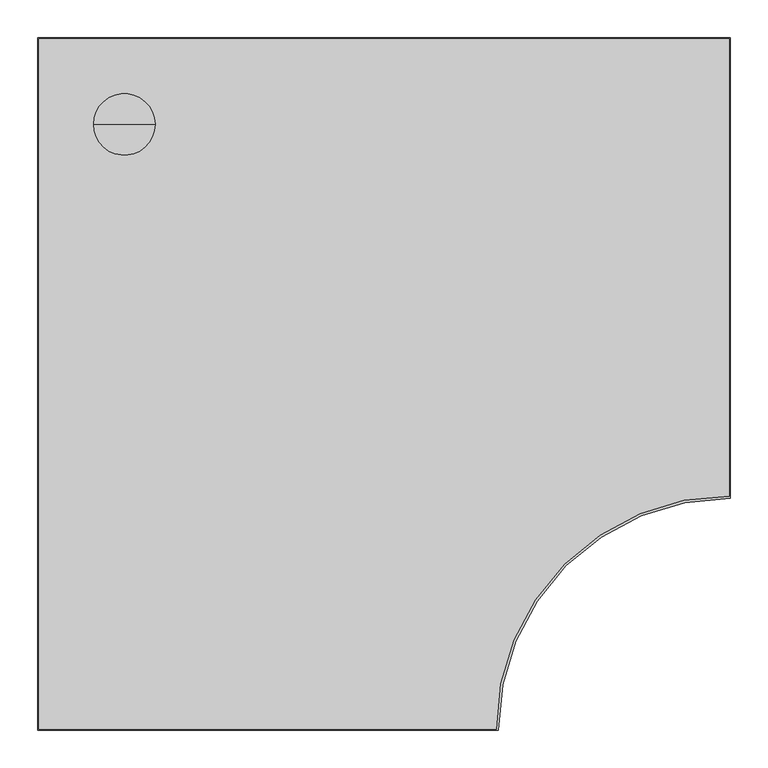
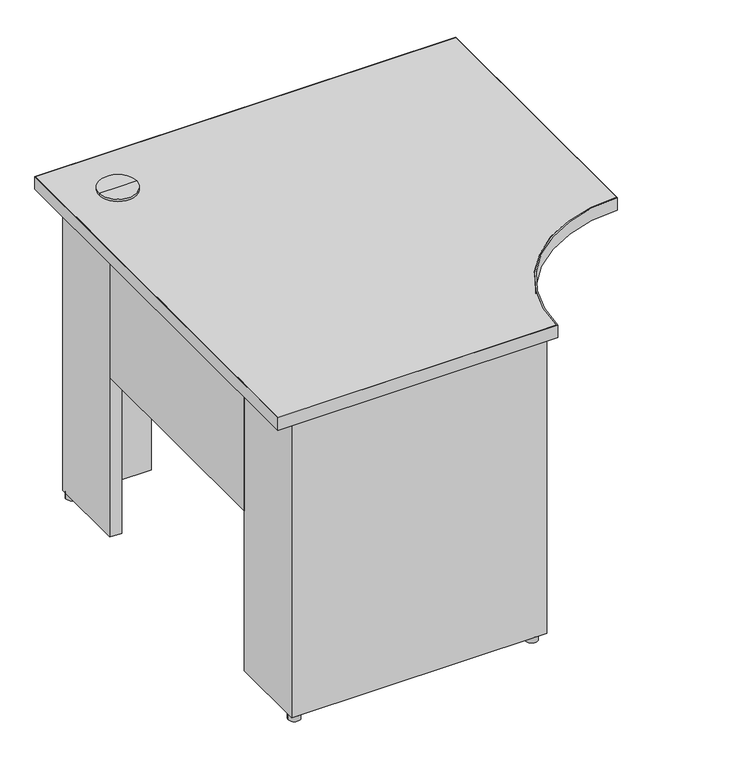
"""IFC4 building model written with IfcOpenShell, lengths in millimetres: furniture geometry, Steelcase - Kick Freestanding - Desk - Curve Corner - Partial Height Modesty Panel : 24D x 36W - Left Full End Panel/Right Clear Access Support - LPL."""

from ifc_helpers import new_model, si_unit, point, frame, frame_2d, origin, origin_with_axes, place, context, project, spatial, polyline, circle_curve, trimmed, segment, composite_curve, outline, extrude, source, transform, mapped, element, save
from ifc_brep_helpers import plane_surface, cylinder_surface, advanced_brep


def furniture_e6da1d96(model_context):
    return source(origin(), model_context, "Body", "SolidModel", [
        extrude(outline(composite_curve([segment(trimmed(circle_curve(frame_2d((566.7971133, -887.4759893)), 12.7), [point((554.0971133, -887.4759893))], [point((579.4971133, -887.4759893))], False, "CARTESIAN"), True, "CONTINUOUS"), segment(trimmed(circle_curve(frame_2d((566.7971133, -887.4759893)), 12.7), [point((579.4971133, -887.4759893))], [point((554.0971133, -887.4759893))], False, "CARTESIAN"), True, "CONTINUOUS")], self_intersect=False)), origin_with_axes(), (0.0, 0.0, 1.0), 12.446),
        extrude(outline(polyline([(721.6393822, -63.5), (721.6393822, -38.1), (899.4393579, -38.1), (899.4393579, -215.8999939), (873.5313463, -215.8999939), (873.5313463, -63.5), (721.6393822, -63.5)])), frame((0.0, 0.0, 12.446), z_axis=(0.0, 0.0, 1.0), x_axis=(1.0, 0.0, 0.0)), (0.0, 0.0, 1.0), 682.498),
        extrude(outline(polyline([(215.8999939, -63.5), (63.5, -63.5), (63.5, -215.8999939), (38.1, -215.8999939), (38.1, -38.1), (215.8999939, -38.1), (215.8999939, -63.5)])), frame((0.0, 0.0, 12.446), z_axis=(0.0, 0.0, 1.0), x_axis=(1.0, 0.0, 0.0)), (0.0, 0.0, 1.0), 682.498),
        extrude(outline(polyline([(63.5, -722.6300194), (63.5, -875.0300194), (161.3662, -875.0300194), (161.3662, -894.6895822), (261.0866, -894.6895822), (261.0866, -875.0300194), (369.824, -875.0300194), (369.824, -894.6895822), (469.5444, -894.6895822), (469.5444, -875.0300194), (592.582, -875.0300194), (592.582, -900.4299952), (38.1, -900.4299952), (38.1, -722.6300194), (63.5, -722.6300194)])), frame((0.0, 0.0, 12.446), z_axis=(0.0, 0.0, 1.0), x_axis=(1.0, 0.0, 0.0)), (0.0, 0.0, 1.0), 682.498),
        advanced_brep(
        [(114.3, -114.3, 728.98), (154.94, -114.3, 728.98), (73.66, -114.3, 728.98), (76.1699693, -114.3, 694.944), (152.4300307, -114.3, 694.944), (114.3, -114.3, 694.944), (76.1699693, -114.3, 723.9), (152.4300307, -114.3, 723.9), (73.66, -114.3, 723.9), (154.94, -114.3, 723.9)],
        [
            (0, 1),
            (1, 2, circle_curve(frame((114.3, -114.3, 728.98), z_axis=(0.0, 0.0, 1.0), x_axis=(1.0, 0.0, 0.0)), 40.64)),
            (2, 0),
            (2, 1, circle_curve(frame((114.3, -114.3, 728.98), z_axis=(0.0, 0.0, 1.0), x_axis=(1.0, 0.0, 0.0)), 40.64)),
            (3, 4, circle_curve(frame((114.3, -114.3, 694.944), z_axis=(0.0, 0.0, -1.0), x_axis=(1.0, 0.0, 0.0)), 38.1300307)),
            (4, 5),
            (5, 3),
            (4, 3, circle_curve(frame((114.3, -114.3, 694.944), z_axis=(0.0, 0.0, -1.0), x_axis=(1.0, 0.0, 0.0)), 38.1300307)),
            (6, 7, circle_curve(frame((114.3, -114.3, 723.9), z_axis=(0.0, 0.0, -1.0), x_axis=(1.0, 0.0, 0.0)), 38.1300307)),
            (7, 4),
            (3, 6),
            (7, 6, circle_curve(frame((114.3, -114.3, 723.9), z_axis=(0.0, 0.0, -1.0), x_axis=(1.0, 0.0, 0.0)), 38.1300307)),
            (8, 9, circle_curve(frame((114.3, -114.3, 723.9), z_axis=(0.0, 0.0, -1.0), x_axis=(1.0, 0.0, 0.0)), 40.64)),
            (9, 7),
            (6, 8),
            (9, 8, circle_curve(frame((114.3, -114.3, 723.9), z_axis=(0.0, 0.0, -1.0), x_axis=(1.0, 0.0, 0.0)), 40.64)),
            (1, 9),
            (8, 2),
        ],
        [
            plane_surface(frame((114.3, -114.3, 728.98), z_axis=(0.0, 0.0, 1.0), x_axis=(1.0, 0.0, 0.0))),
            plane_surface(frame((114.3, -114.3, 694.944), z_axis=(0.0, 0.0, -1.0), x_axis=(1.0, 0.0, 0.0))),
            cylinder_surface(frame((114.3, -114.3, 728.98), z_axis=(0.0, 0.0, 1.0), x_axis=(1.0, 0.0, 0.0)), 38.1300307),
            plane_surface(frame((114.3, -114.3, 723.9), z_axis=(0.0, 0.0, -1.0), x_axis=(1.0, 0.0, 0.0))),
            cylinder_surface(frame((114.3, -114.3, 728.98), z_axis=(0.0, 0.0, 1.0), x_axis=(1.0, 0.0, 0.0)), 40.64),
        ],
        [
            (0, [[1, 2, 3]]),
            (0, [[-3, 4, -1]]),
            (1, [[5, 6, 7]]),
            (1, [[8, -7, -6]]),
            (2, [[9, 10, -5, 11]]),
            (2, [[12, -11, -8, -10]]),
            (3, [[13, 14, -9, 15]]),
            (3, [[16, -15, -12, -14]]),
            (4, [[-2, 17, -13, 18]]),
            (4, [[-4, -18, -16, -17]]),
        ],
    ),
        extrude(outline(composite_curve([segment(trimmed(circle_curve(frame_2d((50.8, -50.8)), 12.7), [point((38.1, -50.8))], [point((63.5, -50.8))], False, "CARTESIAN"), True, "CONTINUOUS"), segment(trimmed(circle_curve(frame_2d((50.8, -50.8)), 12.7), [point((63.5, -50.8))], [point((38.1, -50.8))], False, "CARTESIAN"), True, "CONTINUOUS")], self_intersect=False)), origin_with_axes(), (0.0, 0.0, 1.0), 12.446),
        extrude(outline(composite_curve([segment(trimmed(circle_curve(frame_2d((50.8, -887.7300073)), 12.7484998), [point((38.0515002, -887.7300073))], [point((63.5484998, -887.7300073))], False, "CARTESIAN"), True, "CONTINUOUS"), segment(trimmed(circle_curve(frame_2d((50.8, -887.7300073)), 12.7484998), [point((63.5484998, -887.7300073))], [point((38.0515002, -887.7300073))], False, "CARTESIAN"), True, "CONTINUOUS")], self_intersect=False)), origin_with_axes(), (0.0, 0.0, 1.0), 12.446),
        extrude(outline(composite_curve([segment(trimmed(circle_curve(frame_2d((886.4853521, -50.8)), 12.7), [point((873.7853521, -50.8))], [point((899.1853521, -50.8))], False, "CARTESIAN"), True, "CONTINUOUS"), segment(trimmed(circle_curve(frame_2d((886.4853521, -50.8)), 12.7), [point((899.1853521, -50.8))], [point((873.7853521, -50.8))], False, "CARTESIAN"), True, "CONTINUOUS")], self_intersect=False)), origin_with_axes(), (0.0, 0.0, 1.0), 12.446),
        extrude(outline(polyline([(63.5, -215.8999939), (63.5, -722.6300194), (38.1, -722.6300194), (38.1, -215.8999939), (63.5, -215.8999939)])), frame((0.0, 0.0, 379.476), z_axis=(0.0, 0.0, 1.0), x_axis=(1.0, 0.0, 0.0)), (0.0, 0.0, 1.0), 315.468),
        extrude(outline(polyline([(721.6393822, -38.1), (721.6393822, -63.5), (215.8999939, -63.5), (215.8999939, -38.1), (721.6393822, -38.1)])), frame((0.0, 0.0, 379.476), z_axis=(0.0, 0.0, 1.0), x_axis=(1.0, 0.0, 0.0)), (0.0, 0.0, 1.0), 315.468),
        extrude(outline(composite_curve([segment(polyline([(0.9906, -913.4093628), (0.9906, -0.9906), (913.4093628, -0.9906), (913.4093628, -605.3354109)]), True, "CONTINUOUS"), segment(trimmed(circle_curve(frame_2d((912.1393458, -912.1393458)), 306.8065636), [point((913.4093628, -605.3354109))], [point((605.3354109, -913.4093628))], True, "CARTESIAN"), True, "CONTINUOUS"), segment(polyline([(605.3354109, -913.4093628), (0.9906, -913.4093628)]), True, "CONTINUOUS")], self_intersect=False)), frame((0.0, 0.0, 694.944), z_axis=(0.0, 0.0, 1.0), x_axis=(1.0, 0.0, 0.0)), (0.0, 0.0, 1.0), 28.956),
        extrude(outline(composite_curve([segment(polyline([(914.4, 0.0), (914.4, -608.332629)]), True, "CONTINUOUS"), segment(trimmed(circle_curve(frame_2d((913.129983, -913.129983)), 304.8), [point((914.4, -608.332629))], [point((608.332629, -914.4))], True, "CARTESIAN"), True, "CONTINUOUS"), segment(polyline([(608.332629, -914.4), (0.0, -914.4), (0.0, 0.0), (914.4, 0.0)]), True, "CONTINUOUS")], self_intersect=False), holes=[composite_curve([segment(polyline([(913.4093628, -0.9906), (0.9906, -0.9906), (0.9906, -913.4093628), (605.3354109, -913.4093628)]), True, "CONTINUOUS"), segment(trimmed(circle_curve(frame_2d((912.1393458, -912.1393458)), 306.8065636), [point((605.3354109, -913.4093628))], [point((913.4093628, -605.3354109))], False, "CARTESIAN"), True, "CONTINUOUS"), segment(polyline([(913.4093628, -605.3354109), (913.4093628, -0.9906)]), True, "CONTINUOUS")], self_intersect=False)]), frame((0.0, 0.0, 694.944), z_axis=(0.0, 0.0, 1.0), x_axis=(1.0, 0.0, 0.0)), (0.0, 0.0, 1.0), 28.956),
    ])


if __name__ == "__main__":
    model = new_model("IFC4")
    model_context = context("Model", 3, world=origin())
    ifc_project = project(units=[si_unit("LENGTHUNIT", "METRE", prefix="MILLI")], contexts=[model_context])
    site = spatial("IfcSite", under=ifc_project)
    building = spatial("IfcBuilding", under=site)
    placement = place(None, origin())
    furniture_shape = furniture_e6da1d96(model_context)
    element("IfcFurniture", 1, ObjectType="Steelcase - Kick Freestanding - Desk - Curve Corner - Partial Height Modesty Panel : 24D x 36W - Left Full End Panel/Right Clear Access Support - LPL", at=placement, inside=building, context=model_context, shape_type="MappedRepresentation", body=[
        mapped(furniture_shape, transform((0.0, 0.0, 0.0), x_axis=(1.0, 0.0, 0.0), y_axis=(0.0, 1.0, 0.0), z_axis=(0.0, 0.0, 1.0))),
    ])
    save(model, "model.ifc")
